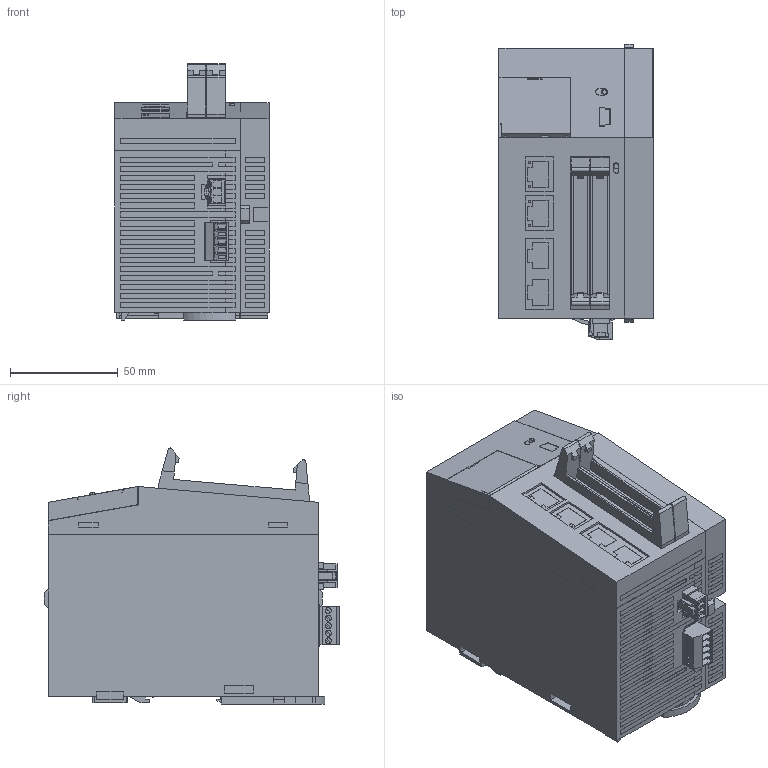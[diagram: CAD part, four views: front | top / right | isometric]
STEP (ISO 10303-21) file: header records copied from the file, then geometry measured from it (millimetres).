
FILE_DESCRIPTION (( 'STEP AP203' ), '1' );
FILE_NAME ('agm1csrx16t.STEP', '2021-01-14T06:32:44', ( '' ), ( '' ), 'SwSTEP 2.0', 'SolidWorks 2017', '' );
FILE_SCHEMA (( 'CONFIG_CONTROL_DESIGN' ));
Length unit declared in the file: millimetre
Products named in the file (5): agm1csrx16t_endcover; agm1csrx16t; agm1csrx16t_afpg805; agm1csrx16t_terminal_5P
Assembly tree (4 placements, depth 2):
  agm1csrx16t
    agm1csrx16t
    agm1csrx16t_endcover
    agm1csrx16t_afpg805
    agm1csrx16t_terminal_5P
Bounding box: 71.4 x 136.88 x 118.67 mm (x, y, z)
Volume: 725546.1 mm3; surface area: 102100.1 mm2
Topology: 4 solids, 4 shells, 1416 faces, 3870 edges, 2565 vertices
Faces by surface type: plane 1339, cylinder 77
Entity records: 44505 total; most frequent: CARTESIAN_POINT 7912, ORIENTED_EDGE 7740, DIRECTION 6870, EDGE_CURVE 3870, VECTOR 3680, LINE 3680, VERTEX_POINT 2565, AXIS2_PLACEMENT_3D 1595
